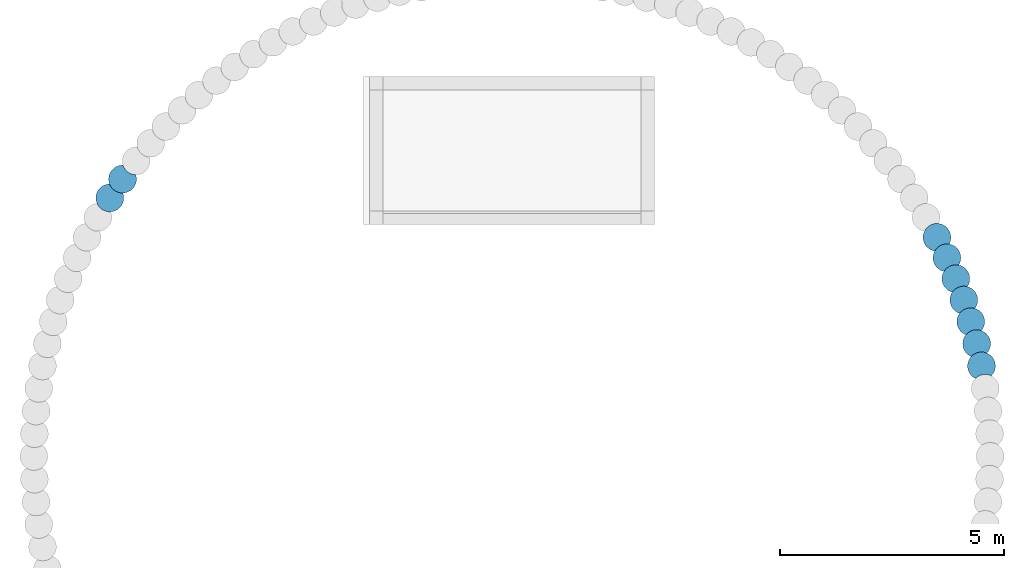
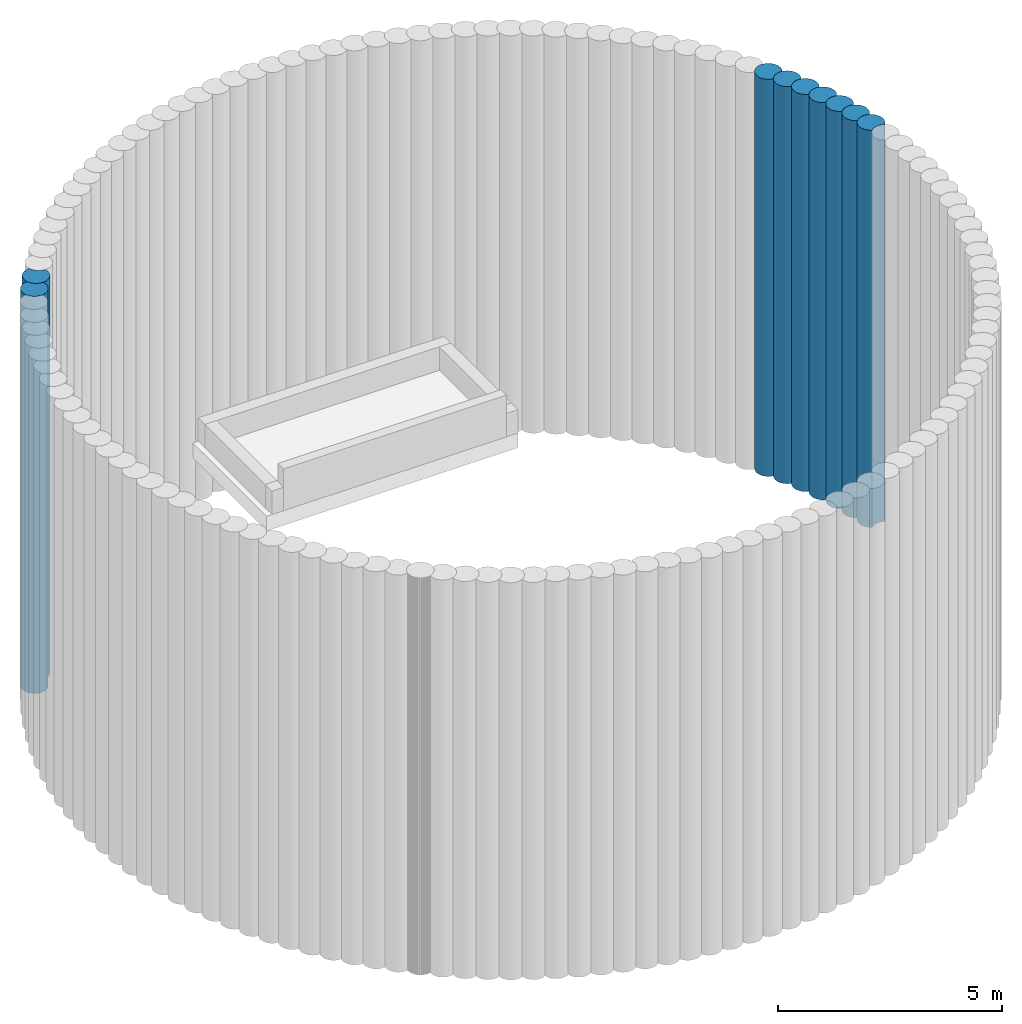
# One storey, part 10 of 16: 9 slabs.
"""IFC2X3 building model written with IfcOpenShell, lengths in centimetres."""

import ifcopenshell
import ifcopenshell.guid

model = None  # the IFC model being written
_history = None  # IfcOwnerHistory: only IFC2X3 demands one
_inside = {}  # id of a spatial element -> (the spatial element, [elements in it])
_under = {}  # id of a project, library or spatial element -> (it, [spatial elements below it])
_declared = {}  # id of a project -> (the project, [libraries it declares])
_typed = {}  # id of a type object -> (the type object, [elements of that type])
_made_of = {}  # id of a material, layer set ... -> (it, [elements and type objects made of it])


def new_model(schema):
    """Start an empty IFC model of exactly this schema.

    Asked for "IFC4X3", IfcOpenShell would pick the latest addendum, in which some entities
    have other attributes; the version numbers below select the first issue.
    IFC2X3 requires an IfcOwnerHistory on every rooted entity: one is made here for all.
    """
    global model, _history
    if schema == "IFC4X3":
        model = ifcopenshell.file(schema_version=(4, 3, 0, 0))
    else:
        model = ifcopenshell.file(schema=schema)
    _inside.clear()
    _under.clear()
    _declared.clear()
    _typed.clear()
    _made_of.clear()
    _history = None
    if model.schema == "IFC2X3":
        org = make("IfcOrganization", Name="unknown")
        user = make(
            "IfcPersonAndOrganization",
            ThePerson=make("IfcPerson", FamilyName="unknown"),
            TheOrganization=org,
        )
        app = make(
            "IfcApplication",
            ApplicationDeveloper=org,
            Version="unknown",
            ApplicationFullName="unknown",
            ApplicationIdentifier="unknown",
        )
        _history = make(
            "IfcOwnerHistory",
            OwningUser=user,
            OwningApplication=app,
            ChangeAction="ADDED",
            CreationDate=0,
        )
    return model


def make(cls, **values):
    """One entity of the class cls with the attributes given. An attribute that is None is left unset."""
    return model.create_entity(
        cls, **{name: value for name, value in values.items() if value is not None}
    )


def entity(cls, *values):
    """Any entity or typed value of the class cls, its attributes in the order of the schema. None: left unset."""
    e = model.create_entity(cls)
    for i, value in enumerate(values):
        if value is not None:
            e[i] = value
    return e


def rooted(cls, **values):
    """An entity with a GlobalId (a new one), such as an element, a storey or a relation."""
    return make(cls, GlobalId=ifcopenshell.guid.new(), OwnerHistory=_history, **values)


def si_unit(unit_type, name, prefix=None):
    """IfcSIUnit, for example si_unit("LENGTHUNIT", "METRE", prefix="MILLI")."""
    return make("IfcSIUnit", UnitType=unit_type, Prefix=prefix, Name=name)


def converted_unit(unit_type, name, factor, base, dimensions=None, offset=None):
    """IfcConversionBasedUnit, such as the inch: factor (a typed value) times the base unit."""
    return make(
        "IfcConversionBasedUnit"
        if offset is None
        else "IfcConversionBasedUnitWithOffset",
        ConversionOffset=offset,
        Dimensions=None
        if dimensions is None
        else entity("IfcDimensionalExponents", *dimensions),
        UnitType=unit_type,
        Name=name,
        ConversionFactor=make(
            "IfcMeasureWithUnit", ValueComponent=factor, UnitComponent=base
        ),
    )


def derived_unit(unit_type, elements):
    """IfcDerivedUnit: a product of units, each with its exponent."""
    return make(
        "IfcDerivedUnit",
        Elements=[
            make("IfcDerivedUnitElement", Unit=unit, Exponent=power)
            for unit, power in elements
        ],
        UnitType=unit_type,
    )


def assignment(units):
    """IfcUnitAssignment: the units of a project."""
    return None if units is None else make("IfcUnitAssignment", Units=units)


def point(xyz):
    """IfcCartesianPoint."""
    return None if xyz is None else make("IfcCartesianPoint", Coordinates=xyz)


def direction(xyz):
    """IfcDirection."""
    return None if xyz is None else make("IfcDirection", DirectionRatios=xyz)


def frame(location, z_axis=None, x_axis=None):
    """IfcAxis2Placement3D, a coordinate frame: its origin and axes. An axis left out is left unset."""
    return make(
        "IfcAxis2Placement3D",
        Location=point(location),
        Axis=direction(z_axis),
        RefDirection=direction(x_axis),
    )


def frame_2d(location, x_axis=None):
    """IfcAxis2Placement2D, a coordinate frame in the plane: its origin and x axis."""
    return make(
        "IfcAxis2Placement2D", Location=point(location), RefDirection=direction(x_axis)
    )


def origin():
    """The frame at (0, 0, 0) with its axes left unset."""
    return frame((0.0, 0.0, 0.0))


def place(relative_to, where):
    """IfcLocalPlacement: puts the frame where relative to a parent placement (None: the world)."""
    return make(
        "IfcLocalPlacement", PlacementRelTo=relative_to, RelativePlacement=where
    )


def context(
    kind, dimensions, precision=None, world=None, true_north=None, identifier=None
):
    """IfcGeometricRepresentationContext, for example the 3D "Model" context."""
    return make(
        "IfcGeometricRepresentationContext",
        ContextIdentifier=identifier,
        ContextType=kind,
        CoordinateSpaceDimension=dimensions,
        Precision=precision,
        WorldCoordinateSystem=world,
        TrueNorth=true_north,
    )


def subcontext(parent, identifier, kind, view, scale=None):
    """IfcGeometricRepresentationSubContext, for example "Body" below "Model"."""
    return make(
        "IfcGeometricRepresentationSubContext",
        ContextIdentifier=identifier,
        ContextType=kind,
        ParentContext=parent,
        TargetScale=scale,
        TargetView=view,
    )


def project(units=None, contexts=None):
    """IfcProject with its units and contexts."""
    return rooted(
        "IfcProject",
        Name="project",
        RepresentationContexts=contexts,
        UnitsInContext=assignment(units),
    )


def spatial(cls, under=None, at=None, **own):
    """A site, building, storey or space (cls), placed at a placement, below another one or the project."""
    s = rooted(cls, ObjectPlacement=at, **own)
    if under is not None:
        _under.setdefault(under.id(), (under, []))[1].append(s)
    return s


def polyline(points):
    """IfcPolyline through the points."""
    return make("IfcPolyline", Points=[point(p) for p in points])


def circle_curve(where, radius):
    """IfcCircle in the frame where."""
    return make("IfcCircle", Position=where, Radius=radius)


def parameter(value):
    """IfcParameterValue: where a trimmed curve begins or ends, as a parameter of its basis curve."""
    return model.create_entity("IfcParameterValue", value)


def trimmed(basis, trim1, trim2, sense, master):
    """IfcTrimmedCurve: the piece of a basis curve between two trims."""
    return make(
        "IfcTrimmedCurve",
        BasisCurve=basis,
        Trim1=trim1,
        Trim2=trim2,
        SenseAgreement=sense,
        MasterRepresentation=master,
    )


def segment(curve, same_sense, transition):
    """IfcCompositeCurveSegment."""
    return make(
        "IfcCompositeCurveSegment",
        Transition=transition,
        SameSense=same_sense,
        ParentCurve=curve,
    )


def composite_curve(segments, self_intersect=None):
    """IfcCompositeCurve: segments joined end to end."""
    return make("IfcCompositeCurve", Segments=segments, SelfIntersect=self_intersect)


def outline(outer, holes=None, kind="AREA"):
    """IfcArbitraryClosedProfileDef: a profile drawn as a closed curve; with holes, ...WithVoids."""
    if holes is None:
        return make("IfcArbitraryClosedProfileDef", ProfileType=kind, OuterCurve=outer)
    return make(
        "IfcArbitraryProfileDefWithVoids",
        ProfileType=kind,
        OuterCurve=outer,
        InnerCurves=holes,
    )


def extrude(swept, where, along, depth):
    """IfcExtrudedAreaSolid: the profile swept, set in the frame where, extruded along a direction by depth."""
    return make(
        "IfcExtrudedAreaSolid",
        SweptArea=swept,
        Position=where,
        ExtrudedDirection=direction(along),
        Depth=depth,
    )


def shape(context_of_items, identifier, shape_type, items):
    """IfcShapeRepresentation: the items that make up one representation, for example the "Body"."""
    return make(
        "IfcShapeRepresentation",
        ContextOfItems=context_of_items,
        RepresentationIdentifier=identifier,
        RepresentationType=shape_type,
        Items=items,
    )


def material(Name=None, Category=None):
    """IfcMaterial."""
    return make("IfcMaterial", Name=Name, Category=Category)


def made_of(thing, what):
    """Note that an element or type object is made of a material, layer set ...; save() writes the relation."""
    if what is not None:
        _made_of.setdefault(what.id(), (what, []))[1].append(thing)
    return thing


def element(
    cls,
    number,
    at=None,
    inside=None,
    cuts=None,
    type_object=None,
    material=None,
    context=None,
    identifier="Body",
    shape_type=None,
    held_by="IfcProductDefinitionShape",
    body=None,
    shapes=None,
    **own,
):
    """One element of the class cls, such as IfcWall. Its Tag is "e" and its number.

    at: its placement. inside: the storey or other place that contains it. cuts: it is an
    opening in that element (IfcRelVoidsElement). A single representation is given by context,
    identifier, shape_type and body (its items); several are given by shapes. held_by: the class
    of the entity that holds the representations. save() writes the other relations.
    """
    e = rooted(cls, Tag="e%d" % number, ObjectPlacement=at, **own)
    if body is not None:
        shapes = [shape(context, identifier, shape_type, body)]
    if shapes is not None:
        e.Representation = make(held_by, Representations=shapes)
    if inside is not None:
        _inside.setdefault(inside.id(), (inside, []))[1].append(e)
    if cuts is not None:
        rooted(
            "IfcRelVoidsElement", RelatingBuildingElement=cuts, RelatedOpeningElement=e
        )
    if type_object is not None:
        _typed.setdefault(type_object.id(), (type_object, []))[1].append(e)
    return made_of(e, material)


def aggregate(whole, parts):
    """IfcRelAggregates: a whole, such as a stair, and the parts it consists of."""
    return rooted("IfcRelAggregates", RelatingObject=whole, RelatedObjects=parts)


def save(model, path):
    """Write the relations noted so far, then the file.

    IfcRelAggregates (storeys below a building ...), IfcRelContainedInSpatialStructure (elements
    in a storey), IfcRelDefinesByType, IfcRelAssociatesMaterial and IfcRelDeclares: one each for
    every whole, place, type object, material and project.
    """
    for whole, parts in _under.values():
        aggregate(whole, parts)
    for where, things in _inside.values():
        rooted(
            "IfcRelContainedInSpatialStructure",
            RelatedElements=things,
            RelatingStructure=where,
        )
    for kind, things in _typed.values():
        rooted("IfcRelDefinesByType", RelatedObjects=things, RelatingType=kind)
    for what, things in _made_of.values():
        rooted("IfcRelAssociatesMaterial", RelatedObjects=things, RelatingMaterial=what)
    for by, libraries in _declared.values():
        rooted("IfcRelDeclares", RelatingContext=by, RelatedDefinitions=libraries)
    model.write(path)


model = new_model("IFC2X3")

# Units and contexts
model_context = context("Model", 3, precision=0.001, world=origin(), true_north=direction((6.12303176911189e-17, 1.0)))
body_context = subcontext(model_context, "Body", "Model", "MODEL_VIEW")
ifc_project = project(units=[si_unit("LENGTHUNIT", "METRE", prefix="CENTI"), si_unit("AREAUNIT", "SQUARE_METRE"), si_unit("VOLUMEUNIT", "CUBIC_METRE"), converted_unit("PLANEANGLEUNIT", "DEGREE", entity("IfcRatioMeasure", 0.0174532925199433), si_unit("PLANEANGLEUNIT", "RADIAN"), dimensions=[0, 0, 0, 0, 0, 0, 0]), si_unit("MASSUNIT", "GRAM", prefix="KILO"), derived_unit("MASSDENSITYUNIT", [(si_unit("MASSUNIT", "GRAM", prefix="KILO"), 1), (si_unit("LENGTHUNIT", "METRE"), -3)]), si_unit("TIMEUNIT", "SECOND"), si_unit("FREQUENCYUNIT", "HERTZ"), si_unit("THERMODYNAMICTEMPERATUREUNIT", "DEGREE_CELSIUS"), derived_unit("THERMALTRANSMITTANCEUNIT", [(si_unit("MASSUNIT", "GRAM", prefix="KILO"), 1), (si_unit("THERMODYNAMICTEMPERATUREUNIT", "KELVIN"), -1), (si_unit("TIMEUNIT", "SECOND"), -3)]), derived_unit("VOLUMETRICFLOWRATEUNIT", [(si_unit("LENGTHUNIT", "METRE"), 3), (si_unit("TIMEUNIT", "SECOND"), -1)]), si_unit("ELECTRICCURRENTUNIT", "AMPERE"), si_unit("ELECTRICVOLTAGEUNIT", "VOLT"), si_unit("POWERUNIT", "WATT"), si_unit("FORCEUNIT", "NEWTON", prefix="KILO"), si_unit("ILLUMINANCEUNIT", "LUX"), si_unit("LUMINOUSFLUXUNIT", "LUMEN"), si_unit("LUMINOUSINTENSITYUNIT", "CANDELA"), derived_unit("USERDEFINED", [(si_unit("MASSUNIT", "GRAM", prefix="KILO"), -1), (si_unit("LENGTHUNIT", "METRE"), -2), (si_unit("TIMEUNIT", "SECOND"), 3), (si_unit("LUMINOUSFLUXUNIT", "LUMEN"), 1)]), derived_unit("LINEARVELOCITYUNIT", [(si_unit("LENGTHUNIT", "METRE"), 1), (si_unit("TIMEUNIT", "SECOND"), -1)]), si_unit("PRESSUREUNIT", "PASCAL"), derived_unit("USERDEFINED", [(si_unit("LENGTHUNIT", "METRE"), -2), (si_unit("MASSUNIT", "GRAM", prefix="KILO"), 1), (si_unit("TIMEUNIT", "SECOND"), -2)])], contexts=[model_context])

# Site, building, storey
site_placement = place(None, origin())
site = spatial("IfcSite", under=ifc_project, at=site_placement, Name="Default", CompositionType="ELEMENT")
building_placement = place(site_placement, origin())
building = spatial("IfcBuilding", under=site, at=building_placement, CompositionType="ELEMENT")
storey_placement = place(building_placement, frame((0.0, 0.0, -984.0)))
storey = spatial("IfcBuildingStorey", under=building, at=storey_placement, Name="Niveau Fond de fosse", CompositionType="ELEMENT", Elevation=-984.000000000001)

# Slabs
ifc_material = material(Name="Maçonnerie - Béton coulé sur place")
slab_1_placement = place(storey_placement, origin())
element("IfcSlab", 1, at=slab_1_placement, inside=storey, material=ifc_material, Name="Pieu béton - JBTP:600mm 2", ObjectType="Pieu béton - JBTP:600mm 2", PredefinedType="BASESLAB", context=body_context, shape_type="SweptSolid", body=[
    extrude(outline(composite_curve([segment(trimmed(circle_curve(frame_2d((1.18354648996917, -14.7318661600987), x_axis=(1.0, 0.0)), 30.9999999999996), [parameter(180.0)], [parameter(207.444291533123)], True, "PARAMETER"), True, "CONTINUOUS"), segment(trimmed(circle_curve(frame_2d((-22.2236636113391, -59.7464676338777), x_axis=(0.998867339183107, -0.0475819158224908)), 30.9999999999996), [parameter(30.1715642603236)], [parameter(100.334884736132)], True, "PARAMETER"), False, "CONTINUOUS"), segment(trimmed(circle_curve(frame_2d((1.18354648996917, -14.7318661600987), x_axis=(1.0, 0.0)), 30.9999999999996), [parameter(277.607612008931)], [parameter(4.07110999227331e-13)], True, "PARAMETER"), True, "CONTINUOUS"), segment(polyline([(32.1835464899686, -14.7318661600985), (31.706841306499, -9.316289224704)]), True, "CONTINUOUS"), segment(polyline([(31.706841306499, -9.316289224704), (30.2921459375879, -4.06934121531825)]), True, "CONTINUOUS"), segment(polyline([(30.2921459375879, -4.06934121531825), (27.981544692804, 0.850722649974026)]), True, "CONTINUOUS"), segment(polyline([(27.981544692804, 0.850722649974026), (24.8625540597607, 5.27574740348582)]), True, "CONTINUOUS"), segment(polyline([(24.8625540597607, 5.27574740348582), (21.0196407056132, 9.09100869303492)]), True, "CONTINUOUS"), segment(polyline([(21.0196407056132, 9.09100869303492), (16.5713553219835, 12.1793831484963)]), True, "CONTINUOUS"), segment(polyline([(16.5713553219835, 12.1793831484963), (11.6531207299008, 14.4466878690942)]), True, "CONTINUOUS"), segment(polyline([(11.6531207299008, 14.4466878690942), (6.41465294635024, 15.8235838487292)]), True, "CONTINUOUS"), segment(polyline([(6.41465294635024, 15.8235838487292), (1.01547753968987, 16.2676782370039)]), True, "CONTINUOUS"), segment(polyline([(1.01547753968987, 16.2676782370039), (-4.38028118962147, 15.7646561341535)]), True, "CONTINUOUS"), segment(polyline([(-4.38028118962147, 15.7646561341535), (-9.5696791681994, 14.343349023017)]), True, "CONTINUOUS"), segment(polyline([(-9.5696791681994, 14.343349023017), (-14.4353628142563, 12.0459170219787)]), True, "CONTINUOUS"), segment(polyline([(-14.4353628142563, 12.0459170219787), (-18.8300295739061, 8.94210209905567)]), True, "CONTINUOUS"), segment(polyline([(-18.8300295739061, 8.94210209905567), (-22.6217091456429, 5.12536940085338)]), True, "CONTINUOUS"), segment(polyline([(-22.6217091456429, 5.12536940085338), (-25.696463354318, 0.710448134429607)]), True, "CONTINUOUS"), segment(polyline([(-25.696463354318, 0.710448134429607), (-27.9617477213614, -4.17005640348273)]), True, "CONTINUOUS"), segment(polyline([(-27.9617477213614, -4.17005640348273), (-29.3490361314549, -9.36890070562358)]), True, "CONTINUOUS"), segment(polyline([(-29.3490361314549, -9.36890070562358), (-29.8164535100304, -14.7318661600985)]), True, "CONTINUOUS")], self_intersect=False)), frame((1036.92114889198, 212.791601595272, -300.0), z_axis=(0.0, 0.0, 1.0), x_axis=(0.798430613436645, 0.602086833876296, 0.0)), (0.0, 0.0, 1.0), 1084.0),
])
slab_2_placement = place(storey_placement, origin())
element("IfcSlab", 2, at=slab_2_placement, inside=storey, material=ifc_material, Name="Pieu béton - JBTP:600mm 2", ObjectType="Pieu béton - JBTP:600mm 2", PredefinedType="BASESLAB", context=body_context, shape_type="SweptSolid", body=[
    extrude(outline(composite_curve([segment(trimmed(circle_curve(frame_2d((1.18354648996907, -14.7318661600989), x_axis=(1.0, 0.0)), 30.9999999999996), [parameter(180.0)], [parameter(207.444291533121)], True, "PARAMETER"), True, "CONTINUOUS"), segment(trimmed(circle_curve(frame_2d((-22.223663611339, -59.7464676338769), x_axis=(0.998867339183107, -0.0475819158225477)), 30.9999999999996), [parameter(30.1715642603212)], [parameter(100.334884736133)], True, "PARAMETER"), False, "CONTINUOUS"), segment(trimmed(circle_curve(frame_2d((1.18354648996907, -14.7318661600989), x_axis=(1.0, 0.0)), 30.9999999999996), [parameter(277.607612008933)], [parameter(4.07110999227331e-13)], True, "PARAMETER"), True, "CONTINUOUS"), segment(polyline([(32.1835464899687, -14.7318661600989), (31.7068413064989, -9.31628922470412)]), True, "CONTINUOUS"), segment(polyline([(31.7068413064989, -9.31628922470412), (30.2921459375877, -4.06934121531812)]), True, "CONTINUOUS"), segment(polyline([(30.2921459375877, -4.06934121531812), (27.9815446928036, 0.850722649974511)]), True, "CONTINUOUS"), segment(polyline([(27.9815446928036, 0.850722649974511), (24.8625540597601, 5.27574740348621)]), True, "CONTINUOUS"), segment(polyline([(24.8625540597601, 5.27574740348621), (21.0196407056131, 9.09100869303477)]), True, "CONTINUOUS"), segment(polyline([(21.0196407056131, 9.09100869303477), (16.5713553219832, 12.1793831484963)]), True, "CONTINUOUS"), segment(polyline([(16.5713553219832, 12.1793831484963), (11.6531207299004, 14.4466878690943)]), True, "CONTINUOUS"), segment(polyline([(11.6531207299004, 14.4466878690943), (6.41465294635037, 15.8235838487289)]), True, "CONTINUOUS"), segment(polyline([(6.41465294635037, 15.8235838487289), (1.01547753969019, 16.2676782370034)]), True, "CONTINUOUS"), segment(polyline([(1.01547753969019, 16.2676782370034), (-4.38028118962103, 15.7646561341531)]), True, "CONTINUOUS"), segment(polyline([(-4.38028118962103, 15.7646561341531), (-9.569679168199, 14.3433490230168)]), True, "CONTINUOUS"), segment(polyline([(-9.569679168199, 14.3433490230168), (-14.4353628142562, 12.0459170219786)]), True, "CONTINUOUS"), segment(polyline([(-14.4353628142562, 12.0459170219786), (-18.830029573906, 8.94210209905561)]), True, "CONTINUOUS"), segment(polyline([(-18.830029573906, 8.94210209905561), (-22.6217091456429, 5.12536940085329)]), True, "CONTINUOUS"), segment(polyline([(-22.6217091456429, 5.12536940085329), (-25.6964633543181, 0.710448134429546)]), True, "CONTINUOUS"), segment(polyline([(-25.6964633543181, 0.710448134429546), (-27.9617477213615, -4.17005640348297)]), True, "CONTINUOUS"), segment(polyline([(-27.9617477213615, -4.17005640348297), (-29.3490361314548, -9.36890070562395)]), True, "CONTINUOUS"), segment(polyline([(-29.3490361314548, -9.36890070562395), (-29.8164535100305, -14.7318661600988)]), True, "CONTINUOUS")], self_intersect=False)), frame((1025.62163686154, 261.889275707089, -300.0), z_axis=(0.0, 0.0, 1.0), x_axis=(0.768877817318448, 0.6393957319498, 0.0)), (0.0, 0.0, 1.0), 1084.0),
])
slab_3_placement = place(storey_placement, origin())
element("IfcSlab", 3, at=slab_3_placement, inside=storey, material=ifc_material, Name="Pieu béton - JBTP:600mm 2", ObjectType="Pieu béton - JBTP:600mm 2", PredefinedType="BASESLAB", context=body_context, shape_type="SweptSolid", body=[
    extrude(outline(composite_curve([segment(trimmed(circle_curve(frame_2d((1.18354648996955, -14.731866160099), x_axis=(1.0, 0.0)), 30.9999999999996), [parameter(180.0)], [parameter(207.444291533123)], True, "PARAMETER"), True, "CONTINUOUS"), segment(trimmed(circle_curve(frame_2d((-22.2236636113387, -59.7464676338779), x_axis=(0.998867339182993, -0.0475819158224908)), 30.9999999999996), [parameter(30.1715642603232)], [parameter(100.334884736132)], True, "PARAMETER"), False, "CONTINUOUS"), segment(trimmed(circle_curve(frame_2d((1.18354648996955, -14.731866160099), x_axis=(1.0, 0.0)), 30.9999999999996), [parameter(277.607612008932)], [parameter(4.07110999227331e-13)], True, "PARAMETER"), True, "CONTINUOUS"), segment(polyline([(32.1835464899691, -14.7318661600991), (31.7068413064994, -9.31628922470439)]), True, "CONTINUOUS"), segment(polyline([(31.7068413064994, -9.31628922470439), (30.2921459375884, -4.06934121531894)]), True, "CONTINUOUS"), segment(polyline([(30.2921459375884, -4.06934121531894), (27.9815446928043, 0.850722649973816)]), True, "CONTINUOUS"), segment(polyline([(27.9815446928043, 0.850722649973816), (24.8625540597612, 5.27574740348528)]), True, "CONTINUOUS"), segment(polyline([(24.8625540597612, 5.27574740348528), (21.0196407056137, 9.09100869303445)]), True, "CONTINUOUS"), segment(polyline([(21.0196407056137, 9.09100869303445), (16.5713553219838, 12.1793831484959)]), True, "CONTINUOUS"), segment(polyline([(16.5713553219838, 12.1793831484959), (11.6531207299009, 14.446687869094)]), True, "CONTINUOUS"), segment(polyline([(11.6531207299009, 14.446687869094), (6.41465294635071, 15.8235838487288)]), True, "CONTINUOUS"), segment(polyline([(6.41465294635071, 15.8235838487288), (1.01547753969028, 16.2676782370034)]), True, "CONTINUOUS"), segment(polyline([(1.01547753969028, 16.2676782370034), (-4.38028118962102, 15.7646561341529)]), True, "CONTINUOUS"), segment(polyline([(-4.38028118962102, 15.7646561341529), (-9.56967916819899, 14.3433490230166)]), True, "CONTINUOUS"), segment(polyline([(-9.56967916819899, 14.3433490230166), (-14.4353628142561, 12.0459170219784)]), True, "CONTINUOUS"), segment(polyline([(-14.4353628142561, 12.0459170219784), (-18.8300295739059, 8.94210209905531)]), True, "CONTINUOUS"), segment(polyline([(-18.8300295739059, 8.94210209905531), (-22.6217091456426, 5.12536940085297)]), True, "CONTINUOUS"), segment(polyline([(-22.6217091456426, 5.12536940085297), (-25.6964633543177, 0.710448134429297)]), True, "CONTINUOUS"), segment(polyline([(-25.6964633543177, 0.710448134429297), (-27.9617477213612, -4.17005640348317)]), True, "CONTINUOUS"), segment(polyline([(-27.9617477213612, -4.17005640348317), (-29.3490361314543, -9.36890070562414)]), True, "CONTINUOUS"), segment(polyline([(-29.3490361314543, -9.36890070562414), (-29.81645351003, -14.731866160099)]), True, "CONTINUOUS")], self_intersect=False)), frame((1011.99876194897, 310.393686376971, -300.0), z_axis=(0.0, 0.0, 1.0), x_axis=(0.737583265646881, 0.675256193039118, 0.0)), (0.0, 0.0, 1.0), 1084.0),
])
slab_4_placement = place(storey_placement, origin())
element("IfcSlab", 4, at=slab_4_placement, inside=storey, material=ifc_material, Name="Pieu béton - JBTP:600mm 2", ObjectType="Pieu béton - JBTP:600mm 2", PredefinedType="BASESLAB", context=body_context, shape_type="SweptSolid", body=[
    extrude(outline(composite_curve([segment(trimmed(circle_curve(frame_2d((1.18354648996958, -14.7318661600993), x_axis=(1.0, 0.0)), 30.9999999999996), [parameter(180.0)], [parameter(207.444291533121)], True, "PARAMETER"), True, "CONTINUOUS"), segment(trimmed(circle_curve(frame_2d((-22.2236636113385, -59.7464676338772), x_axis=(0.998867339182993, -0.0475819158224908)), 30.9999999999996), [parameter(30.1715642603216)], [parameter(100.334884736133)], True, "PARAMETER"), False, "CONTINUOUS"), segment(trimmed(circle_curve(frame_2d((1.18354648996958, -14.7318661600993), x_axis=(1.0, 0.0)), 30.9999999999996), [parameter(277.607612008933)], [parameter(4.07110999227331e-13)], True, "PARAMETER"), True, "CONTINUOUS"), segment(polyline([(32.1835464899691, -14.7318661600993), (31.7068413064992, -9.31628922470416)]), True, "CONTINUOUS"), segment(polyline([(31.7068413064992, -9.31628922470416), (30.2921459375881, -4.06934121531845)]), True, "CONTINUOUS"), segment(polyline([(30.2921459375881, -4.06934121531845), (27.9815446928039, 0.850722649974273)]), True, "CONTINUOUS"), segment(polyline([(27.9815446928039, 0.850722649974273), (24.8625540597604, 5.27574740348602)]), True, "CONTINUOUS"), segment(polyline([(24.8625540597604, 5.27574740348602), (21.0196407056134, 9.09100869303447)]), True, "CONTINUOUS"), segment(polyline([(21.0196407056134, 9.09100869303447), (16.5713553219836, 12.179383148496)]), True, "CONTINUOUS"), segment(polyline([(16.5713553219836, 12.179383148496), (11.6531207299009, 14.4466878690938)]), True, "CONTINUOUS"), segment(polyline([(11.6531207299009, 14.4466878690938), (6.41465294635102, 15.8235838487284)]), True, "CONTINUOUS"), segment(polyline([(6.41465294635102, 15.8235838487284), (1.01547753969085, 16.2676782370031)]), True, "CONTINUOUS"), segment(polyline([(1.01547753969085, 16.2676782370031), (-4.38028118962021, 15.7646561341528)]), True, "CONTINUOUS"), segment(polyline([(-4.38028118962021, 15.7646561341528), (-9.56967916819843, 14.3433490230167)]), True, "CONTINUOUS"), segment(polyline([(-9.56967916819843, 14.3433490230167), (-14.4353628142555, 12.0459170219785)]), True, "CONTINUOUS"), segment(polyline([(-14.4353628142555, 12.0459170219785), (-18.8300295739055, 8.94210209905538)]), True, "CONTINUOUS"), segment(polyline([(-18.8300295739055, 8.94210209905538), (-22.6217091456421, 5.12536940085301)]), True, "CONTINUOUS"), segment(polyline([(-22.6217091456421, 5.12536940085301), (-25.6964633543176, 0.710448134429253)]), True, "CONTINUOUS"), segment(polyline([(-25.6964633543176, 0.710448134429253), (-27.9617477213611, -4.17005640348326)]), True, "CONTINUOUS"), segment(polyline([(-27.9617477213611, -4.17005640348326), (-29.3490361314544, -9.36890070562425)]), True, "CONTINUOUS"), segment(polyline([(-29.3490361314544, -9.36890070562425), (-29.81645351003, -14.7318661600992)]), True, "CONTINUOUS")], self_intersect=False)), frame((996.083384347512, 358.194955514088, -300.0), z_axis=(0.0, 0.0, 1.0), x_axis=(0.70461785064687, 0.709586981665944, 0.0)), (0.0, 0.0, 1.0), 1084.0),
])
slab_5_placement = place(storey_placement, origin())
element("IfcSlab", 5, at=slab_5_placement, inside=storey, material=ifc_material, Name="Pieu béton - JBTP:600mm 2", ObjectType="Pieu béton - JBTP:600mm 2", PredefinedType="BASESLAB", context=body_context, shape_type="SweptSolid", body=[
    extrude(outline(composite_curve([segment(trimmed(circle_curve(frame_2d((1.18354648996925, -14.731866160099), x_axis=(1.0, 0.0)), 30.9999999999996), [parameter(180.0)], [parameter(207.444291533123)], True, "PARAMETER"), True, "CONTINUOUS"), segment(trimmed(circle_curve(frame_2d((-22.2236636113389, -59.7464676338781), x_axis=(0.998867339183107, -0.0475819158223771)), 30.9999999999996), [parameter(30.1715642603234)], [parameter(100.334884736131)], True, "PARAMETER"), False, "CONTINUOUS"), segment(trimmed(circle_curve(frame_2d((1.18354648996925, -14.731866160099), x_axis=(1.0, 0.0)), 30.9999999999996), [parameter(277.607612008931)], [parameter(4.07110999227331e-13)], True, "PARAMETER"), True, "CONTINUOUS"), segment(polyline([(32.1835464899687, -14.7318661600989), (31.706841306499, -9.31628922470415)]), True, "CONTINUOUS"), segment(polyline([(31.706841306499, -9.31628922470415), (30.2921459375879, -4.06934121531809)]), True, "CONTINUOUS"), segment(polyline([(30.2921459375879, -4.06934121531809), (27.9815446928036, 0.850722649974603)]), True, "CONTINUOUS"), segment(polyline([(27.9815446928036, 0.850722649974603), (24.8625540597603, 5.27574740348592)]), True, "CONTINUOUS"), segment(polyline([(24.8625540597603, 5.27574740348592), (21.0196407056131, 9.0910086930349)]), True, "CONTINUOUS"), segment(polyline([(21.0196407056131, 9.0910086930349), (16.5713553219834, 12.1793831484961)]), True, "CONTINUOUS"), segment(polyline([(16.5713553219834, 12.1793831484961), (11.6531207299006, 14.4466878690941)]), True, "CONTINUOUS"), segment(polyline([(11.6531207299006, 14.4466878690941), (6.41465294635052, 15.8235838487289)]), True, "CONTINUOUS"), segment(polyline([(6.41465294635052, 15.8235838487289), (1.01547753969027, 16.2676782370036)]), True, "CONTINUOUS"), segment(polyline([(1.01547753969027, 16.2676782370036), (-4.38028118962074, 15.7646561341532)]), True, "CONTINUOUS"), segment(polyline([(-4.38028118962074, 15.7646561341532), (-9.56967916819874, 14.3433490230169)]), True, "CONTINUOUS"), segment(polyline([(-9.56967916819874, 14.3433490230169), (-14.4353628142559, 12.0459170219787)]), True, "CONTINUOUS"), segment(polyline([(-14.4353628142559, 12.0459170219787), (-18.8300295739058, 8.94210209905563)]), True, "CONTINUOUS"), segment(polyline([(-18.8300295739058, 8.94210209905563), (-22.6217091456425, 5.12536940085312)]), True, "CONTINUOUS"), segment(polyline([(-22.6217091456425, 5.12536940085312), (-25.6964633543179, 0.71044813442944)]), True, "CONTINUOUS"), segment(polyline([(-25.6964633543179, 0.71044813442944), (-27.9617477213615, -4.17005640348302)]), True, "CONTINUOUS"), segment(polyline([(-27.9617477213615, -4.17005640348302), (-29.3490361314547, -9.36890070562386)]), True, "CONTINUOUS"), segment(polyline([(-29.3490361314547, -9.36890070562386), (-29.8164535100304, -14.7318661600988)]), True, "CONTINUOUS")], self_intersect=False)), frame((977.911557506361, 405.18479786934, -300.0), z_axis=(0.0, 0.0, 1.0), x_axis=(0.670056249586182, 0.742310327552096, 0.0)), (0.0, 0.0, 1.0), 1084.0),
])
slab_6_placement = place(storey_placement, origin())
element("IfcSlab", 6, at=slab_6_placement, inside=storey, material=ifc_material, Name="Pieu béton - JBTP:600mm 2", ObjectType="Pieu béton - JBTP:600mm 2", PredefinedType="BASESLAB", context=body_context, shape_type="SweptSolid", body=[
    extrude(outline(composite_curve([segment(trimmed(circle_curve(frame_2d((1.1835464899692, -14.731866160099), x_axis=(1.0, 0.0)), 30.9999999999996), [parameter(180.0)], [parameter(207.444291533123)], True, "PARAMETER"), True, "CONTINUOUS"), segment(trimmed(circle_curve(frame_2d((-22.2236636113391, -59.7464676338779), x_axis=(0.998867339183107, -0.0475819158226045)), 30.9999999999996), [parameter(30.1715642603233)], [parameter(100.334884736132)], True, "PARAMETER"), False, "CONTINUOUS"), segment(trimmed(circle_curve(frame_2d((1.1835464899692, -14.731866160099), x_axis=(1.0, 0.0)), 30.9999999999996), [parameter(277.607612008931)], [parameter(4.07110999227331e-13)], True, "PARAMETER"), True, "CONTINUOUS"), segment(polyline([(32.1835464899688, -14.731866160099), (31.706841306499, -9.31628922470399)]), True, "CONTINUOUS"), segment(polyline([(31.706841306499, -9.31628922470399), (30.2921459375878, -4.0693412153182)]), True, "CONTINUOUS"), segment(polyline([(30.2921459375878, -4.0693412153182), (27.9815446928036, 0.850722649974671)]), True, "CONTINUOUS"), segment(polyline([(27.9815446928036, 0.850722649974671), (24.8625540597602, 5.27574740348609)]), True, "CONTINUOUS"), segment(polyline([(24.8625540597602, 5.27574740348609), (21.019640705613, 9.0910086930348)]), True, "CONTINUOUS"), segment(polyline([(21.019640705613, 9.0910086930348), (16.5713553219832, 12.1793831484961)]), True, "CONTINUOUS"), segment(polyline([(16.5713553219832, 12.1793831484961), (11.6531207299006, 14.4466878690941)]), True, "CONTINUOUS"), segment(polyline([(11.6531207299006, 14.4466878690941), (6.41465294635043, 15.8235838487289)]), True, "CONTINUOUS"), segment(polyline([(6.41465294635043, 15.8235838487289), (1.01547753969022, 16.2676782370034)]), True, "CONTINUOUS"), segment(polyline([(1.01547753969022, 16.2676782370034), (-4.38028118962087, 15.7646561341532)]), True, "CONTINUOUS"), segment(polyline([(-4.38028118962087, 15.7646561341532), (-9.56967916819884, 14.3433490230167)]), True, "CONTINUOUS"), segment(polyline([(-9.56967916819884, 14.3433490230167), (-14.4353628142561, 12.0459170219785)]), True, "CONTINUOUS"), segment(polyline([(-14.4353628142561, 12.0459170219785), (-18.8300295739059, 8.94210209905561)]), True, "CONTINUOUS"), segment(polyline([(-18.8300295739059, 8.94210209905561), (-22.6217091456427, 5.1253694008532)]), True, "CONTINUOUS"), segment(polyline([(-22.6217091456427, 5.1253694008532), (-25.6964633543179, 0.710448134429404)]), True, "CONTINUOUS"), segment(polyline([(-25.6964633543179, 0.710448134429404), (-27.9617477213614, -4.17005640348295)]), True, "CONTINUOUS"), segment(polyline([(-27.9617477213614, -4.17005640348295), (-29.3490361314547, -9.36890070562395)]), True, "CONTINUOUS"), segment(polyline([(-29.3490361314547, -9.36890070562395), (-29.8164535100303, -14.7318661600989)]), True, "CONTINUOUS")], self_intersect=False)), frame((957.524446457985, 451.256766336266, -300.0), z_axis=(0.0, 0.0, 1.0), x_axis=(0.633976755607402, 0.773352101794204, 0.0)), (0.0, 0.0, 1.0), 1084.0),
])
slab_7_placement = place(storey_placement, origin())
element("IfcSlab", 7, at=slab_7_placement, inside=storey, material=ifc_material, Name="Pieu béton - JBTP:600mm 2", ObjectType="Pieu béton - JBTP:600mm 2", PredefinedType="BASESLAB", context=body_context, shape_type="SweptSolid", body=[
    extrude(outline(composite_curve([segment(trimmed(circle_curve(frame_2d((1.18354648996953, -14.731866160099), x_axis=(1.0, 0.0)), 30.9999999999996), [parameter(180.0)], [parameter(207.444291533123)], True, "PARAMETER"), True, "CONTINUOUS"), segment(trimmed(circle_curve(frame_2d((-22.2236636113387, -59.7464676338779), x_axis=(0.998867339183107, -0.0475819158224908)), 30.9999999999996), [parameter(30.1715642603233)], [parameter(100.334884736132)], True, "PARAMETER"), False, "CONTINUOUS"), segment(trimmed(circle_curve(frame_2d((1.18354648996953, -14.731866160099), x_axis=(1.0, 0.0)), 30.9999999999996), [parameter(277.607612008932)], [parameter(4.07110999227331e-13)], True, "PARAMETER"), True, "CONTINUOUS"), segment(polyline([(32.183546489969, -14.731866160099), (31.7068413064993, -9.31628922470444)]), True, "CONTINUOUS"), segment(polyline([(31.7068413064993, -9.31628922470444), (30.2921459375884, -4.06934121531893)]), True, "CONTINUOUS"), segment(polyline([(30.2921459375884, -4.06934121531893), (27.9815446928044, 0.850722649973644)]), True, "CONTINUOUS"), segment(polyline([(27.9815446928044, 0.850722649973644), (24.8625540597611, 5.27574740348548)]), True, "CONTINUOUS"), segment(polyline([(24.8625540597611, 5.27574740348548), (21.0196407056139, 9.0910086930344)]), True, "CONTINUOUS"), segment(polyline([(21.0196407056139, 9.0910086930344), (16.5713553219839, 12.1793831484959)]), True, "CONTINUOUS"), segment(polyline([(16.5713553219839, 12.1793831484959), (11.6531207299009, 14.4466878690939)]), True, "CONTINUOUS"), segment(polyline([(11.6531207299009, 14.4466878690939), (6.41465294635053, 15.823583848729)]), True, "CONTINUOUS"), segment(polyline([(6.41465294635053, 15.823583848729), (1.0154775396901, 16.2676782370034)]), True, "CONTINUOUS"), segment(polyline([(1.0154775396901, 16.2676782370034), (-4.38028118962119, 15.764656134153)]), True, "CONTINUOUS"), segment(polyline([(-4.38028118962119, 15.764656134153), (-9.56967916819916, 14.3433490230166)]), True, "CONTINUOUS"), segment(polyline([(-9.56967916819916, 14.3433490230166), (-14.4353628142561, 12.0459170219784)]), True, "CONTINUOUS"), segment(polyline([(-14.4353628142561, 12.0459170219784), (-18.830029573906, 8.9421020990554)]), True, "CONTINUOUS"), segment(polyline([(-18.830029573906, 8.9421020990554), (-22.6217091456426, 5.12536940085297)]), True, "CONTINUOUS"), segment(polyline([(-22.6217091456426, 5.12536940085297), (-25.6964633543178, 0.710448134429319)]), True, "CONTINUOUS"), segment(polyline([(-25.6964633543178, 0.710448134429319), (-27.9617477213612, -4.17005640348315)]), True, "CONTINUOUS"), segment(polyline([(-27.9617477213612, -4.17005640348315), (-29.3490361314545, -9.36890070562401)]), True, "CONTINUOUS"), segment(polyline([(-29.3490361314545, -9.36890070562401), (-29.8164535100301, -14.731866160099)]), True, "CONTINUOUS")], self_intersect=False)), frame((934.968234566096, 496.306493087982, -300.0), z_axis=(0.0, 0.0, 1.0), x_axis=(0.596461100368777, 0.802641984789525, 0.0)), (0.0, 0.0, 1.0), 1084.0),
])
slab_8_placement = place(storey_placement, origin())
element("IfcSlab", 8, at=slab_8_placement, inside=storey, material=ifc_material, Name="Pieu béton - JBTP:600mm 2", ObjectType="Pieu béton - JBTP:600mm 2", PredefinedType="BASESLAB", context=body_context, shape_type="SweptSolid", body=[
    extrude(outline(composite_curve([segment(trimmed(circle_curve(frame_2d((1.18354648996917, -14.7318661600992), x_axis=(1.0, 0.0)), 30.9999999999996), [parameter(180.0)], [parameter(207.444291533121)], True, "PARAMETER"), True, "CONTINUOUS"), segment(trimmed(circle_curve(frame_2d((-22.2236636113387, -59.7464676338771), x_axis=(0.998867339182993, -0.047581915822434)), 30.9999999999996), [parameter(30.1715642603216)], [parameter(100.334884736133)], True, "PARAMETER"), False, "CONTINUOUS"), segment(trimmed(circle_curve(frame_2d((1.18354648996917, -14.7318661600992), x_axis=(1.0, 0.0)), 30.9999999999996), [parameter(277.607612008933)], [parameter(4.07110999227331e-13)], True, "PARAMETER"), True, "CONTINUOUS"), segment(polyline([(32.1835464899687, -14.7318661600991), (31.7068413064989, -9.3162892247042)]), True, "CONTINUOUS"), segment(polyline([(31.7068413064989, -9.3162892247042), (30.2921459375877, -4.06934121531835)]), True, "CONTINUOUS"), segment(polyline([(30.2921459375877, -4.06934121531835), (27.9815446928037, 0.850722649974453)]), True, "CONTINUOUS"), segment(polyline([(27.9815446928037, 0.850722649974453), (24.8625540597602, 5.27574740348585)]), True, "CONTINUOUS"), segment(polyline([(24.8625540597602, 5.27574740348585), (21.0196407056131, 9.09100869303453)]), True, "CONTINUOUS"), segment(polyline([(21.0196407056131, 9.09100869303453), (16.5713553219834, 12.179383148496)]), True, "CONTINUOUS"), segment(polyline([(16.5713553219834, 12.179383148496), (11.6531207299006, 14.4466878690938)]), True, "CONTINUOUS"), segment(polyline([(11.6531207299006, 14.4466878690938), (6.41465294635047, 15.8235838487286)]), True, "CONTINUOUS"), segment(polyline([(6.41465294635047, 15.8235838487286), (1.0154775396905, 16.2676782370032)]), True, "CONTINUOUS"), segment(polyline([(1.0154775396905, 16.2676782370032), (-4.38028118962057, 15.7646561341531)]), True, "CONTINUOUS"), segment(polyline([(-4.38028118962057, 15.7646561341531), (-9.56967916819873, 14.3433490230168)]), True, "CONTINUOUS"), segment(polyline([(-9.56967916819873, 14.3433490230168), (-14.4353628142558, 12.0459170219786)]), True, "CONTINUOUS"), segment(polyline([(-14.4353628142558, 12.0459170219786), (-18.8300295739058, 8.94210209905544)]), True, "CONTINUOUS"), segment(polyline([(-18.8300295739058, 8.94210209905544), (-22.6217091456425, 5.12536940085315)]), True, "CONTINUOUS"), segment(polyline([(-22.6217091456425, 5.12536940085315), (-25.6964633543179, 0.710448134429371)]), True, "CONTINUOUS"), segment(polyline([(-25.6964633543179, 0.710448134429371), (-27.9617477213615, -4.1700564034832)]), True, "CONTINUOUS"), segment(polyline([(-27.9617477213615, -4.1700564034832), (-29.3490361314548, -9.36890070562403)]), True, "CONTINUOUS"), segment(polyline([(-29.3490361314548, -9.36890070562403), (-29.8164535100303, -14.731866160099)]), True, "CONTINUOUS")], self_intersect=False)), frame((-869.562046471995, 603.612112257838, -300.0), z_axis=(0.0, 0.0, 1.0), x_axis=(-0.986730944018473, 0.162363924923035, 0.0)), (0.0, 0.0, 1.0), 1084.0),
])
slab_9_placement = place(storey_placement, origin())
element("IfcSlab", 9, at=slab_9_placement, inside=storey, material=ifc_material, Name="Pieu béton - JBTP:600mm 2", ObjectType="Pieu béton - JBTP:600mm 2", PredefinedType="BASESLAB", context=body_context, shape_type="SweptSolid", body=[
    extrude(outline(composite_curve([segment(trimmed(circle_curve(frame_2d((1.18354648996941, -14.7318661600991), x_axis=(1.0, 0.0)), 30.9999999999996), [parameter(180.0)], [parameter(207.444291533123)], True, "PARAMETER"), True, "CONTINUOUS"), segment(trimmed(circle_curve(frame_2d((-22.223663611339, -59.746467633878), x_axis=(0.998867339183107, -0.0475819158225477)), 30.9999999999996), [parameter(30.1715642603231)], [parameter(100.334884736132)], True, "PARAMETER"), False, "CONTINUOUS"), segment(trimmed(circle_curve(frame_2d((1.18354648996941, -14.7318661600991), x_axis=(1.0, 0.0)), 30.9999999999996), [parameter(277.607612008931)], [parameter(4.07110999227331e-13)], True, "PARAMETER"), True, "CONTINUOUS"), segment(polyline([(32.1835464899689, -14.7318661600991), (31.7068413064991, -9.31628922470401)]), True, "CONTINUOUS"), segment(polyline([(31.7068413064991, -9.31628922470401), (30.2921459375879, -4.06934121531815)]), True, "CONTINUOUS"), segment(polyline([(30.2921459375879, -4.06934121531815), (27.9815446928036, 0.850722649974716)]), True, "CONTINUOUS"), segment(polyline([(27.9815446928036, 0.850722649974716), (24.8625540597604, 5.2757474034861)]), True, "CONTINUOUS"), segment(polyline([(24.8625540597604, 5.2757474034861), (21.0196407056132, 9.09100869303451)]), True, "CONTINUOUS"), segment(polyline([(21.0196407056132, 9.09100869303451), (16.5713553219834, 12.179383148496)]), True, "CONTINUOUS"), segment(polyline([(16.5713553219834, 12.179383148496), (11.6531207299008, 14.4466878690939)]), True, "CONTINUOUS"), segment(polyline([(11.6531207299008, 14.4466878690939), (6.41465294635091, 15.8235838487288)]), True, "CONTINUOUS"), segment(polyline([(6.41465294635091, 15.8235838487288), (1.01547753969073, 16.2676782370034)]), True, "CONTINUOUS"), segment(polyline([(1.01547753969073, 16.2676782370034), (-4.38028118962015, 15.7646561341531)]), True, "CONTINUOUS"), segment(polyline([(-4.38028118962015, 15.7646561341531), (-9.5696791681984, 14.3433490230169)]), True, "CONTINUOUS"), segment(polyline([(-9.5696791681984, 14.3433490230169), (-14.4353628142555, 12.0459170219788)]), True, "CONTINUOUS"), segment(polyline([(-14.4353628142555, 12.0459170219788), (-18.8300295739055, 8.94210209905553)]), True, "CONTINUOUS"), segment(polyline([(-18.8300295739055, 8.94210209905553), (-22.6217091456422, 5.12536940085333)]), True, "CONTINUOUS"), segment(polyline([(-22.6217091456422, 5.12536940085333), (-25.6964633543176, 0.710448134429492)]), True, "CONTINUOUS"), segment(polyline([(-25.6964633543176, 0.710448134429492), (-27.9617477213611, -4.17005640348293)]), True, "CONTINUOUS"), segment(polyline([(-27.9617477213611, -4.17005640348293), (-29.3490361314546, -9.36890070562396)]), True, "CONTINUOUS"), segment(polyline([(-29.3490361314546, -9.36890070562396), (-29.8164535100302, -14.731866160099)]), True, "CONTINUOUS")], self_intersect=False)), frame((-897.298148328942, 561.552996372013, -300.0), z_axis=(0.0, 0.0, 1.0), x_axis=(-0.993338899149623, 0.115229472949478, 0.0)), (0.0, 0.0, 1.0), 1084.0),
])

save(model, "model.ifc")
